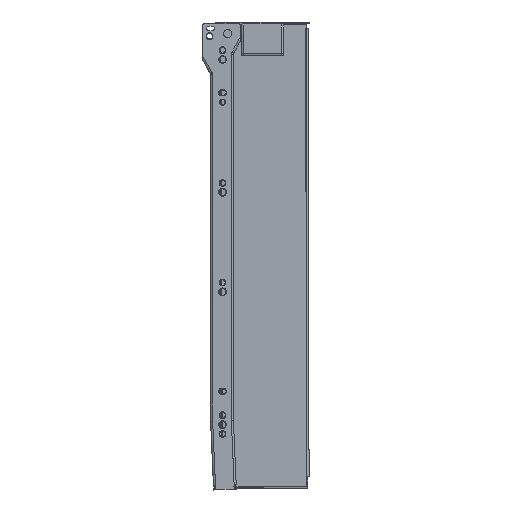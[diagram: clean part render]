
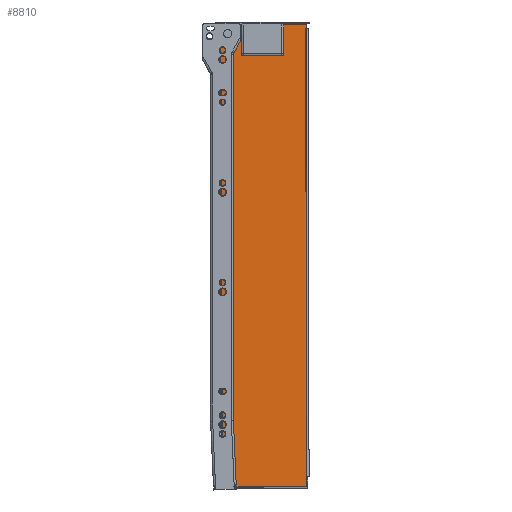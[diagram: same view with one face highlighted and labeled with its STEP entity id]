
A CAD part, left-side view. The second image highlights one B-rep face of the part: STEP entity #8810.
In plain terms, the highlighted planar face has unit normal (-1, 0, 0) as drawn and (0, 0, -1) by its records, which use the part's own axes.
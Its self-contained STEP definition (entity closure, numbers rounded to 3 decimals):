
#240=FACE_BOUND('',#1844,.T.);
#766=CIRCLE('',#9582,2.);
#767=CIRCLE('',#9584,1.2);
#768=CIRCLE('',#9585,2.);
#769=CIRCLE('',#9586,3.5);
#1236=FACE_OUTER_BOUND('',#1843,.T.);
#1843=EDGE_LOOP('',(#6810,#6811,#6812,#6813,#6814,#6815,#6816,#6817,#6818,
#6819,#6820));
#1844=EDGE_LOOP('',(#6821));
#2506=LINE('',#14166,#3216);
#2510=LINE('',#14184,#3220);
#2511=LINE('',#14186,#3221);
#2512=LINE('',#14188,#3222);
#2513=LINE('',#14190,#3223);
#2514=LINE('',#14192,#3224);
#2515=LINE('',#14196,#3225);
#2516=LINE('',#14199,#3226);
#3216=VECTOR('',#11479,85.928);
#3220=VECTOR('',#11489,446.2);
#3221=VECTOR('',#11490,84.034);
#3222=VECTOR('',#11491,55.801);
#3223=VECTOR('',#11492,369.152);
#3224=VECTOR('',#11493,1.6);
#3225=VECTOR('',#11496,1.3);
#3226=VECTOR('',#11499,15.5);
#4000=VERTEX_POINT('',#14160);
#4001=VERTEX_POINT('',#14165);
#4003=VERTEX_POINT('',#14178);
#4004=VERTEX_POINT('',#14183);
#4005=VERTEX_POINT('',#14185);
#4006=VERTEX_POINT('',#14187);
#4007=VERTEX_POINT('',#14189);
#4008=VERTEX_POINT('',#14191);
#4009=VERTEX_POINT('',#14193);
#4010=VERTEX_POINT('',#14195);
#4011=VERTEX_POINT('',#14197);
#4012=VERTEX_POINT('',#14200);
#5002=EDGE_CURVE('',#4000,#4001,#2506,.T.);
#5005=EDGE_CURVE('',#4001,#4003,#766,.T.);
#5008=EDGE_CURVE('',#4004,#4000,#2510,.T.);
#5009=EDGE_CURVE('',#4004,#4005,#2511,.T.);
#5010=EDGE_CURVE('',#4006,#4005,#2512,.T.);
#5011=EDGE_CURVE('',#4007,#4006,#2513,.T.);
#5012=EDGE_CURVE('',#4007,#4008,#2514,.T.);
#5013=EDGE_CURVE('',#4009,#4008,#767,.T.);
#5014=EDGE_CURVE('',#4010,#4009,#2515,.T.);
#5015=EDGE_CURVE('',#4011,#4010,#768,.T.);
#5016=EDGE_CURVE('',#4003,#4011,#2516,.T.);
#5017=EDGE_CURVE('',#4012,#4012,#769,.T.);
#6810=ORIENTED_EDGE('',*,*,#5002,.F.);
#6811=ORIENTED_EDGE('',*,*,#5008,.F.);
#6812=ORIENTED_EDGE('',*,*,#5009,.T.);
#6813=ORIENTED_EDGE('',*,*,#5010,.F.);
#6814=ORIENTED_EDGE('',*,*,#5011,.F.);
#6815=ORIENTED_EDGE('',*,*,#5012,.T.);
#6816=ORIENTED_EDGE('',*,*,#5013,.F.);
#6817=ORIENTED_EDGE('',*,*,#5014,.F.);
#6818=ORIENTED_EDGE('',*,*,#5015,.F.);
#6819=ORIENTED_EDGE('',*,*,#5016,.F.);
#6820=ORIENTED_EDGE('',*,*,#5005,.F.);
#6821=ORIENTED_EDGE('',*,*,#5017,.T.);
#7921=PLANE('',#9583);
#8810=ADVANCED_FACE('',(#1236,#240),#7921,.F.);
#9582=AXIS2_PLACEMENT_3D('',#14179,#11483,#11484);
#9583=AXIS2_PLACEMENT_3D('',#14182,#11487,#11488);
#9584=AXIS2_PLACEMENT_3D('',#14194,#11494,#11495);
#9585=AXIS2_PLACEMENT_3D('',#14198,#11497,#11498);
#9586=AXIS2_PLACEMENT_3D('',#14201,#11500,#11501);
#11479=DIRECTION('',(0.,1.,0.));
#11483=DIRECTION('center_axis',(0.,0.,1.));
#11484=DIRECTION('ref_axis',(1.,0.,0.));
#11487=DIRECTION('center_axis',(0.,0.,1.));
#11488=DIRECTION('ref_axis',(1.,0.,0.));
#11489=DIRECTION('',(1.,0.,0.));
#11490=DIRECTION('',(0.,1.,0.));
#11491=DIRECTION('',(-0.999,0.044,0.));
#11492=DIRECTION('',(-1.,0.,0.));
#11493=DIRECTION('',(0.,1.,0.));
#11494=DIRECTION('center_axis',(0.,0.,-1.));
#11495=DIRECTION('ref_axis',(1.,0.,0.));
#11496=DIRECTION('',(0.,-1.,0.));
#11497=DIRECTION('center_axis',(0.,0.,1.));
#11498=DIRECTION('ref_axis',(0.,1.,0.));
#11499=DIRECTION('',(-1.,0.,0.));
#11500=DIRECTION('center_axis',(0.,0.,1.));
#11501=DIRECTION('ref_axis',(-1.,0.,0.));
#14160=CARTESIAN_POINT('',(9.4,-79.,0.));
#14165=CARTESIAN_POINT('',(9.4,6.928,0.));
#14166=CARTESIAN_POINT('',(9.4,-17.967,0.));
#14178=CARTESIAN_POINT('',(8.,7.5,0.));
#14179=CARTESIAN_POINT('Origin',(8.,5.5,0.));
#14182=CARTESIAN_POINT('Origin',(-214.822,-37.633,0.));
#14183=CARTESIAN_POINT('',(-436.8,-79.,0.));
#14184=CARTESIAN_POINT('',(-327.411,-79.,0.));
#14185=CARTESIAN_POINT('',(-436.8,5.034,0.));
#14186=CARTESIAN_POINT('',(-436.8,-15.029,0.));
#14187=CARTESIAN_POINT('',(-381.052,2.6,0.));
#14188=CARTESIAN_POINT('',(-297.232,-1.06,0.));
#14189=CARTESIAN_POINT('',(-11.9,2.6,0.));
#14190=CARTESIAN_POINT('',(-113.361,2.6,0.));
#14191=CARTESIAN_POINT('',(-11.9,4.2,0.));
#14192=CARTESIAN_POINT('',(-11.9,-16.717,0.));
#14193=CARTESIAN_POINT('',(-9.5,4.2,0.));
#14194=CARTESIAN_POINT('Origin',(-10.7,4.2,0.));
#14195=CARTESIAN_POINT('',(-9.5,5.5,0.));
#14196=CARTESIAN_POINT('',(-9.5,5.5,0.));
#14197=CARTESIAN_POINT('',(-7.5,7.5,0.));
#14198=CARTESIAN_POINT('Origin',(-7.5,5.5,0.));
#14199=CARTESIAN_POINT('',(8.,7.5,0.));
#14200=CARTESIAN_POINT('',(3.5,0.,0.));
#14201=CARTESIAN_POINT('Origin',(0.,0.,0.));
